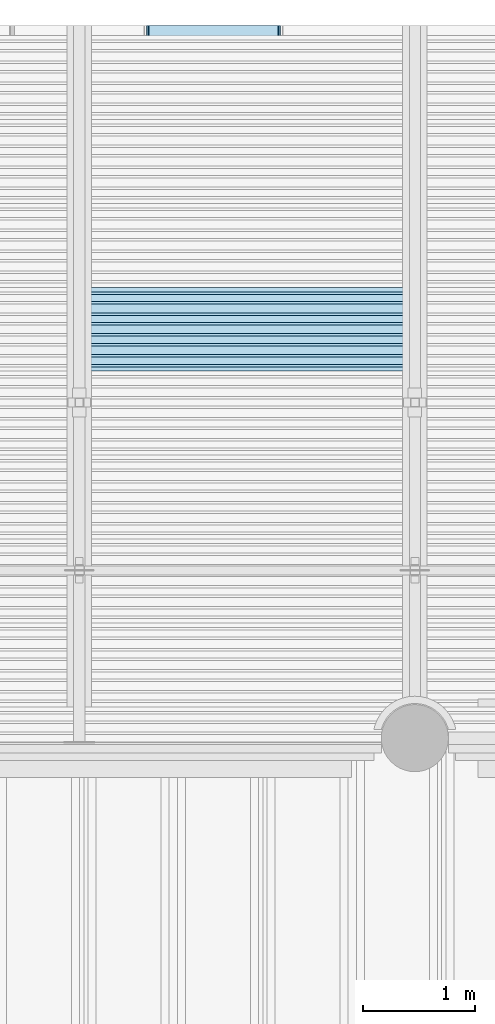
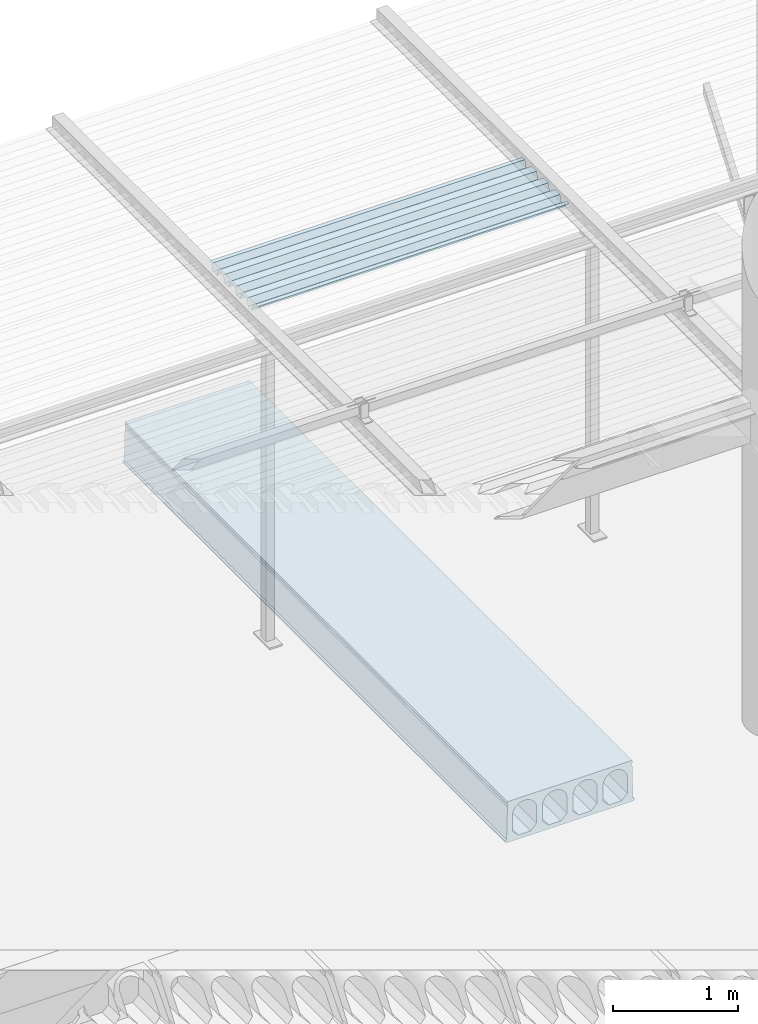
# One storey, part 91 of 98: 2 slabs.
"""IFC2X3 building model written with IfcOpenShell, lengths in millimetres."""

from ifc_helpers import new_model, entity, si_unit, converted_unit, derived_unit, direction, frame, origin_with_axes, place, context, subcontext, project, spatial, faceted_brep, material, type_object, element, save


model = new_model("IFC2X3")

# Units and contexts
model_context = context("Model", 3, precision=0.01, world=frame((0.0, 4.29681676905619e-09, 0.0)), true_north=direction((4.01073788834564e-13, 1.0)))
plan_context = context("Plan", 3, precision=0.01, world=frame((0.0, 4.29681676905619e-09, 0.0)), true_north=direction((4.01073788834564e-13, 1.0)))
body_context = subcontext(model_context, "Body", "Model", "MODEL_VIEW")
ifc_project = project(units=[converted_unit("PLANEANGLEUNIT", "DEGREE", entity("IfcPositiveLengthMeasure", 0.0174532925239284), si_unit("PLANEANGLEUNIT", "RADIAN"), dimensions=[0, 0, 0, 0, 0, 0, 0]), si_unit("AREAUNIT", "SQUARE_METRE"), si_unit("LENGTHUNIT", "METRE", prefix="MILLI"), si_unit("MASSUNIT", "GRAM", prefix="KILO"), si_unit("POWERUNIT", "WATT"), si_unit("PRESSUREUNIT", "PASCAL"), si_unit("FORCEUNIT", "NEWTON", prefix="KILO"), si_unit("ELECTRICCURRENTUNIT", "AMPERE"), si_unit("THERMODYNAMICTEMPERATUREUNIT", "DEGREE_CELSIUS"), si_unit("TIMEUNIT", "SECOND"), si_unit("VOLUMEUNIT", "CUBIC_METRE"), derived_unit("LINEARVELOCITYUNIT", [(si_unit("LENGTHUNIT", "METRE"), 1), (si_unit("TIMEUNIT", "SECOND"), -1)]), derived_unit("VOLUMETRICFLOWRATEUNIT", [(si_unit("VOLUMEUNIT", "CUBIC_METRE"), 1), (si_unit("TIMEUNIT", "SECOND"), -1)]), derived_unit("THERMALTRANSMITTANCEUNIT", [(si_unit("POWERUNIT", "WATT"), 1), (si_unit("THERMODYNAMICTEMPERATUREUNIT", "KELVIN"), -1), (si_unit("AREAUNIT", "SQUARE_METRE"), -1)])], contexts=[model_context, plan_context])

# Site, building, storey
site_placement = place(None, frame((0.0, -4.29681676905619e-09, 0.0), z_axis=(0.0, 0.0, 1.0), x_axis=(1.0, 0.0, 0.0)))
site = spatial("IfcSite", under=ifc_project, at=site_placement, Name="Gardermoen", CompositionType="ELEMENT")
building_placement = place(site_placement, frame((0.0, 4.29681676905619e-09, 0.0), z_axis=(0.0, 0.0, 1.0), x_axis=(1.0, 0.0, 0.0)))
building = spatial("IfcBuilding", under=site, at=building_placement, Name="TS", CompositionType="ELEMENT")
storey_placement = place(building_placement, origin_with_axes())
storey = spatial("IfcBuildingStorey", under=building, at=storey_placement, Name="D", CompositionType="ELEMENT", Elevation=0.0)

# Slabs
slab_type_1 = type_object("IfcSlabType", Name="HD400", PredefinedType="NOTDEFINED")
slab_1_placement = place(storey_placement, frame((527199.999766, 414739.995625, 203600.0), z_axis=(0.0, 0.0, 1.0), x_axis=(0.0, 1.0, 0.0)))
element("IfcSlab", 1, at=slab_1_placement, inside=storey, type_object=slab_type_1, Name="HULLDEKKE", ObjectType="HD400", PredefinedType="FLOOR", context=body_context, shape_type="Brep", body=[
    faceted_brep([(6130.19582840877, 600.0, -190.0), (6130.19582840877, 600.0, -180.0), (0.0, 600.0, -180.0), (0.0, 600.0, -190.0), (6130.19582840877, 585.0, -170.0), (0.0, 585.0, -170.0), (6130.19582840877, 577.5, 145.0), (0.0, 577.5, 145.0), (6130.19582840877, 570.0, 160.0), (0.0, 570.0, 160.0), (6130.19582840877, 577.5, 175.0), (0.0, 577.5, 175.0), (6130.19582840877, 577.5, 200.0), (0.0, 577.5, 200.0), (6130.19582840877, -577.5, 200.0), (0.0, -577.5, 200.0), (6130.19582840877, -577.5, 175.0), (0.0, -577.5, 175.0), (6130.19582840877, -570.0, 160.0), (0.0, -570.0, 160.0), (6130.19582840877, -577.5, 145.0), (0.0, -577.5, 145.0), (6130.19582840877, -585.0, -170.0), (0.0, -585.0, -170.0), (6130.19582840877, -600.0, -180.0), (0.0, -600.0, -180.0), (6130.19582840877, -600.0, -190.0), (0.0, -600.0, -190.0), (6130.19582840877, -583.380004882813, -200.0), (0.0, -583.380004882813, -200.0), (6130.19582840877, 583.380004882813, -200.0), (0.0, 583.380004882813, -200.0), (6130.19582840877, -362.5, -160.0), (6130.19582840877, -477.5, -160.0), (0.0, -477.5, -160.0), (0.0, -362.5, -160.0), (6130.19582840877, -532.5, -105.0), (0.0, -532.5, -105.0), (6130.19582840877, -532.5, 47.5), (0.0, -532.5, 47.5), (6130.19582840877, -532.115755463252, 56.7901763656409), (0.0, -532.115755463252, 56.7901763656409), (6130.19582840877, -530.965646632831, 66.0168914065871), (0.0, -530.965646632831, 66.0168914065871), (6130.19582840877, -529.057529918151, 75.1171173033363), (0.0, -529.057529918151, 75.1171173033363), (6130.19582840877, -526.404439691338, 84.028690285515), (0.0, -526.404439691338, 84.028690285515), (6130.19582840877, -523.024499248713, 92.6907352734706), (0.0, -523.024499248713, 92.6907352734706), (6130.19582840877, -518.940797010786, 101.044081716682), (0.0, -518.940797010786, 101.044081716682), (6130.19582840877, -514.181228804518, 109.031667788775), (0.0, -514.181228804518, 109.031667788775), (6130.19582840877, -508.778307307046, 116.598930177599), (0.0, -508.778307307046, 116.598930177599), (6130.19582840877, -502.768939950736, 123.694176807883), (0.0, -502.768939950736, 123.694176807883), (6130.19582840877, -496.194176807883, 130.268939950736), (0.0, -496.194176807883, 130.268939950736), (6130.19582840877, -489.098930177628, 136.278307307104), (0.0, -489.098930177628, 136.278307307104), (6130.19582840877, -481.531667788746, 141.681228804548), (0.0, -481.531667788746, 141.681228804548), (6130.19582840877, -473.544081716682, 146.440797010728), (0.0, -473.544081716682, 146.440797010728), (6130.19582840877, -465.190735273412, 150.524499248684), (0.0, -465.190735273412, 150.524499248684), (6130.19582840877, -456.528690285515, 153.904439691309), (0.0, -456.528690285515, 153.904439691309), (6130.19582840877, -447.617117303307, 156.55752991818), (0.0, -447.617117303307, 156.55752991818), (6130.19582840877, -438.516891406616, 158.465646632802), (0.0, -438.516891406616, 158.465646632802), (6130.19582840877, -429.290176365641, 159.615755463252), (0.0, -429.290176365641, 159.615755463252), (6130.19582840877, -420.0, 160.0), (0.0, -420.0, 160.0), (6130.19582840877, -410.709823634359, 159.615755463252), (0.0, -410.709823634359, 159.615755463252), (6130.19582840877, -401.483108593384, 158.465646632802), (0.0, -401.483108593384, 158.465646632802), (6130.19582840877, -392.382882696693, 156.55752991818), (0.0, -392.382882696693, 156.55752991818), (6130.19582840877, -383.471309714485, 153.904439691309), (0.0, -383.471309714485, 153.904439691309), (6130.19582840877, -374.809264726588, 150.524499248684), (0.0, -374.809264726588, 150.524499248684), (6130.19582840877, -366.455918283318, 146.440797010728), (0.0, -366.455918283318, 146.440797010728), (6130.19582840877, -358.468332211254, 141.681228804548), (0.0, -358.468332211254, 141.681228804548), (6130.19582840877, -350.901069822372, 136.278307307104), (0.0, -350.901069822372, 136.278307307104), (6130.19582840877, -343.805823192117, 130.268939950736), (0.0, -343.805823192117, 130.268939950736), (6130.19582840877, -337.231060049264, 123.694176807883), (0.0, -337.231060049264, 123.694176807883), (6130.19582840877, -331.221692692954, 116.598930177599), (0.0, -331.221692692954, 116.598930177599), (6130.19582840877, -325.818771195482, 109.031667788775), (0.0, -325.818771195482, 109.031667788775), (6130.19582840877, -321.059202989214, 101.044081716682), (0.0, -321.059202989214, 101.044081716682), (6130.19582840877, -316.975500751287, 92.6907352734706), (0.0, -316.975500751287, 92.6907352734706), (6130.19582840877, -313.595560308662, 84.028690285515), (0.0, -313.595560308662, 84.028690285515), (6130.19582840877, -310.942470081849, 75.1171173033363), (0.0, -310.942470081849, 75.1171173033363), (6130.19582840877, -309.034353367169, 66.0168914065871), (0.0, -309.034353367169, 66.0168914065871), (6130.19582840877, -307.884244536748, 56.7901763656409), (0.0, -307.884244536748, 56.7901763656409), (6130.19582840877, -307.5, 47.5), (0.0, -307.5, 47.5), (6130.19582840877, -307.5, -105.0), (0.0, -307.5, -105.0), (6130.19582840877, -82.5, -160.0), (6130.19582840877, -197.5, -160.0), (0.0, -197.5, -160.0), (0.0, -82.5, -160.0), (6130.19582840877, -252.5, -105.0), (0.0, -252.5, -105.0), (6130.19582840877, -252.5, 47.5), (0.0, -252.5, 47.5), (6130.19582840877, -252.115755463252, 56.7901763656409), (0.0, -252.115755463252, 56.7901763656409), (6130.19582840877, -250.965646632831, 66.0168914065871), (0.0, -250.965646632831, 66.0168914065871), (6130.19582840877, -249.057529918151, 75.1171173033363), (0.0, -249.057529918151, 75.1171173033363), (6130.19582840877, -246.404439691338, 84.028690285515), (0.0, -246.404439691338, 84.028690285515), (6130.19582840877, -243.024499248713, 92.6907352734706), (0.0, -243.024499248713, 92.6907352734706), (6130.19582840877, -238.940797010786, 101.044081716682), (0.0, -238.940797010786, 101.044081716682), (6130.19582840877, -234.181228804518, 109.031667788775), (0.0, -234.181228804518, 109.031667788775), (6130.19582840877, -228.778307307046, 116.598930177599), (0.0, -228.778307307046, 116.598930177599), (6130.19582840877, -222.768939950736, 123.694176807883), (0.0, -222.768939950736, 123.694176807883), (6130.19582840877, -216.194176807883, 130.268939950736), (0.0, -216.194176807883, 130.268939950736), (6130.19582840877, -209.098930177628, 136.278307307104), (0.0, -209.098930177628, 136.278307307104), (6130.19582840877, -201.531667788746, 141.681228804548), (0.0, -201.531667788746, 141.681228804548), (6130.19582840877, -193.544081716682, 146.440797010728), (0.0, -193.544081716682, 146.440797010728), (6130.19582840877, -185.190735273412, 150.524499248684), (0.0, -185.190735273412, 150.524499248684), (6130.19582840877, -176.528690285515, 153.904439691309), (0.0, -176.528690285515, 153.904439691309), (6130.19582840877, -167.617117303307, 156.55752991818), (0.0, -167.617117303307, 156.55752991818), (6130.19582840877, -158.516891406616, 158.465646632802), (0.0, -158.516891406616, 158.465646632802), (6130.19582840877, -149.290176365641, 159.615755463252), (0.0, -149.290176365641, 159.615755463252), (6130.19582840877, -140.0, 160.0), (0.0, -140.0, 160.0), (6130.19582840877, -130.709823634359, 159.615755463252), (0.0, -130.709823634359, 159.615755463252), (6130.19582840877, -121.483108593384, 158.465646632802), (0.0, -121.483108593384, 158.465646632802), (6130.19582840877, -112.382882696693, 156.55752991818), (0.0, -112.382882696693, 156.55752991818), (6130.19582840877, -103.471309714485, 153.904439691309), (0.0, -103.471309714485, 153.904439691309), (6130.19582840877, -94.8092647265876, 150.524499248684), (0.0, -94.8092647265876, 150.524499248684), (6130.19582840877, -86.4559182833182, 146.440797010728), (0.0, -86.4559182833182, 146.440797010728), (6130.19582840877, -78.4683322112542, 141.681228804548), (0.0, -78.4683322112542, 141.681228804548), (6130.19582840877, -70.9010698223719, 136.278307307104), (0.0, -70.9010698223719, 136.278307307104), (6130.19582840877, -63.8058231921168, 130.268939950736), (0.0, -63.8058231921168, 130.268939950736), (6130.19582840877, -57.2310600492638, 123.694176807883), (0.0, -57.2310600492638, 123.694176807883), (6130.19582840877, -51.2216926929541, 116.598930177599), (0.0, -51.2216926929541, 116.598930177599), (6130.19582840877, -45.8187711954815, 109.031667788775), (0.0, -45.8187711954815, 109.031667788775), (6130.19582840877, -41.0592029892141, 101.044081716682), (0.0, -41.0592029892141, 101.044081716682), (6130.19582840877, -36.9755007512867, 92.6907352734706), (0.0, -36.9755007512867, 92.6907352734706), (6130.19582840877, -33.5955603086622, 84.028690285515), (0.0, -33.5955603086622, 84.028690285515), (6130.19582840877, -30.942470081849, 75.1171173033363), (0.0, -30.942470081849, 75.1171173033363), (6130.19582840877, -29.0343533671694, 66.0168914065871), (0.0, -29.0343533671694, 66.0168914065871), (6130.19582840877, -27.8842445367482, 56.7901763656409), (0.0, -27.8842445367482, 56.7901763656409), (6130.19582840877, -27.5, 47.5), (0.0, -27.5, 47.5), (6130.19582840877, -27.5, -105.0), (0.0, -27.5, -105.0), (6130.19582840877, 197.5, -160.0), (6130.19582840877, 82.5, -160.0), (0.0, 82.5, -160.0), (0.0, 197.5, -160.0), (6130.19582840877, 27.5, -105.0), (0.0, 27.5, -105.0), (6130.19582840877, 27.5, 47.5), (0.0, 27.5, 47.5), (6130.19582840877, 27.8842445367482, 56.7901763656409), (0.0, 27.8842445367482, 56.7901763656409), (6130.19582840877, 29.0343533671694, 66.0168914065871), (0.0, 29.0343533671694, 66.0168914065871), (6130.19582840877, 30.942470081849, 75.1171173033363), (0.0, 30.942470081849, 75.1171173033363), (6130.19582840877, 33.5955603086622, 84.028690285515), (0.0, 33.5955603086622, 84.028690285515), (6130.19582840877, 36.9755007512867, 92.6907352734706), (0.0, 36.9755007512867, 92.6907352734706), (6130.19582840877, 41.0592029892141, 101.044081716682), (0.0, 41.0592029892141, 101.044081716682), (6130.19582840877, 45.8187711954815, 109.031667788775), (0.0, 45.8187711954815, 109.031667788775), (6130.19582840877, 51.2216926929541, 116.598930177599), (0.0, 51.2216926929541, 116.598930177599), (6130.19582840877, 57.2310600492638, 123.694176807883), (0.0, 57.2310600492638, 123.694176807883), (6130.19582840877, 63.8058231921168, 130.268939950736), (0.0, 63.8058231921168, 130.268939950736), (6130.19582840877, 70.9010698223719, 136.278307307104), (0.0, 70.9010698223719, 136.278307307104), (6130.19582840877, 78.4683322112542, 141.681228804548), (0.0, 78.4683322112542, 141.681228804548), (6130.19582840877, 86.4559182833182, 146.440797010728), (0.0, 86.4559182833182, 146.440797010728), (6130.19582840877, 94.8092647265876, 150.524499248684), (0.0, 94.8092647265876, 150.524499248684), (6130.19582840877, 103.471309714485, 153.904439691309), (0.0, 103.471309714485, 153.904439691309), (6130.19582840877, 112.382882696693, 156.55752991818), (0.0, 112.382882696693, 156.55752991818), (6130.19582840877, 121.483108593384, 158.465646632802), (0.0, 121.483108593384, 158.465646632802), (6130.19582840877, 130.709823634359, 159.615755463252), (0.0, 130.709823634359, 159.615755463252), (6130.19582840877, 140.0, 160.0), (0.0, 140.0, 160.0), (6130.19582840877, 149.290176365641, 159.615755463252), (0.0, 149.290176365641, 159.615755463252), (6130.19582840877, 158.516891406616, 158.465646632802), (0.0, 158.516891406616, 158.465646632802), (6130.19582840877, 167.617117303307, 156.55752991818), (0.0, 167.617117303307, 156.55752991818), (6130.19582840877, 176.528690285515, 153.904439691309), (0.0, 176.528690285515, 153.904439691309), (6130.19582840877, 185.190735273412, 150.524499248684), (0.0, 185.190735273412, 150.524499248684), (6130.19582840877, 193.544081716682, 146.440797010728), (0.0, 193.544081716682, 146.440797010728), (6130.19582840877, 201.531667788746, 141.681228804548), (0.0, 201.531667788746, 141.681228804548), (6130.19582840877, 209.098930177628, 136.278307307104), (0.0, 209.098930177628, 136.278307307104), (6130.19582840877, 216.194176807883, 130.268939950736), (0.0, 216.194176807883, 130.268939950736), (6130.19582840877, 222.768939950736, 123.694176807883), (0.0, 222.768939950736, 123.694176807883), (6130.19582840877, 228.778307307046, 116.598930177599), (0.0, 228.778307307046, 116.598930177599), (6130.19582840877, 234.181228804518, 109.031667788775), (0.0, 234.181228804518, 109.031667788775), (6130.19582840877, 238.940797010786, 101.044081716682), (0.0, 238.940797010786, 101.044081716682), (6130.19582840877, 243.024499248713, 92.6907352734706), (0.0, 243.024499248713, 92.6907352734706), (6130.19582840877, 246.404439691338, 84.028690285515), (0.0, 246.404439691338, 84.028690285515), (6130.19582840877, 249.057529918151, 75.1171173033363), (0.0, 249.057529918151, 75.1171173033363), (6130.19582840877, 250.965646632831, 66.0168914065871), (0.0, 250.965646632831, 66.0168914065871), (6130.19582840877, 252.115755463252, 56.7901763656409), (0.0, 252.115755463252, 56.7901763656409), (6130.19582840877, 252.5, 47.5), (0.0, 252.5, 47.5), (6130.19582840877, 252.5, -105.0), (0.0, 252.5, -105.0), (6130.19582840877, 477.5, -160.0), (6130.19582840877, 362.5, -160.0), (0.0, 362.5, -160.0), (0.0, 477.5, -160.0), (6130.19582840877, 307.5, -105.0), (0.0, 307.5, -105.0), (6130.19582840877, 307.5, 47.5), (0.0, 307.5, 47.5), (6130.19582840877, 307.884244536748, 56.7901763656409), (0.0, 307.884244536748, 56.7901763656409), (6130.19582840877, 309.034353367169, 66.0168914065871), (0.0, 309.034353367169, 66.0168914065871), (6130.19582840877, 310.942470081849, 75.1171173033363), (0.0, 310.942470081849, 75.1171173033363), (6130.19582840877, 313.595560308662, 84.028690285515), (0.0, 313.595560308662, 84.028690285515), (6130.19582840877, 316.975500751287, 92.6907352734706), (0.0, 316.975500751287, 92.6907352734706), (6130.19582840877, 321.059202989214, 101.044081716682), (0.0, 321.059202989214, 101.044081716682), (6130.19582840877, 325.818771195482, 109.031667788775), (0.0, 325.818771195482, 109.031667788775), (6130.19582840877, 331.221692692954, 116.598930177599), (0.0, 331.221692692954, 116.598930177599), (6130.19582840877, 337.231060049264, 123.694176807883), (0.0, 337.231060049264, 123.694176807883), (6130.19582840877, 343.805823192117, 130.268939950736), (0.0, 343.805823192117, 130.268939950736), (6130.19582840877, 350.901069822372, 136.278307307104), (0.0, 350.901069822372, 136.278307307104), (6130.19582840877, 358.468332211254, 141.681228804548), (0.0, 358.468332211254, 141.681228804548), (6130.19582840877, 366.455918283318, 146.440797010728), (0.0, 366.455918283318, 146.440797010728), (6130.19582840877, 374.809264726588, 150.524499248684), (0.0, 374.809264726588, 150.524499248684), (6130.19582840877, 383.471309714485, 153.904439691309), (0.0, 383.471309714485, 153.904439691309), (6130.19582840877, 392.382882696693, 156.55752991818), (0.0, 392.382882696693, 156.55752991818), (6130.19582840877, 401.483108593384, 158.465646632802), (0.0, 401.483108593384, 158.465646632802), (6130.19582840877, 410.709823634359, 159.615755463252), (0.0, 410.709823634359, 159.615755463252), (6130.19582840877, 420.0, 160.0), (0.0, 420.0, 160.0), (6130.19582840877, 429.290176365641, 159.615755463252), (0.0, 429.290176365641, 159.615755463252), (6130.19582840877, 438.516891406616, 158.465646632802), (0.0, 438.516891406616, 158.465646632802), (6130.19582840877, 447.617117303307, 156.55752991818), (0.0, 447.617117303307, 156.55752991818), (6130.19582840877, 456.528690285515, 153.904439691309), (0.0, 456.528690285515, 153.904439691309), (6130.19582840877, 465.190735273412, 150.524499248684), (0.0, 465.190735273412, 150.524499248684), (6130.19582840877, 473.544081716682, 146.440797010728), (0.0, 473.544081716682, 146.440797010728), (6130.19582840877, 481.531667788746, 141.681228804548), (0.0, 481.531667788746, 141.681228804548), (6130.19582840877, 489.098930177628, 136.278307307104), (0.0, 489.098930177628, 136.278307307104), (6130.19582840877, 496.194176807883, 130.268939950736), (0.0, 496.194176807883, 130.268939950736), (6130.19582840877, 502.768939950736, 123.694176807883), (0.0, 502.768939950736, 123.694176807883), (6130.19582840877, 508.778307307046, 116.598930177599), (0.0, 508.778307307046, 116.598930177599), (6130.19582840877, 514.181228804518, 109.031667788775), (0.0, 514.181228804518, 109.031667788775), (6130.19582840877, 518.940797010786, 101.044081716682), (0.0, 518.940797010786, 101.044081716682), (6130.19582840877, 523.024499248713, 92.6907352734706), (0.0, 523.024499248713, 92.6907352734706), (6130.19582840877, 526.404439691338, 84.028690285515), (0.0, 526.404439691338, 84.028690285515), (6130.19582840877, 529.057529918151, 75.1171173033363), (0.0, 529.057529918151, 75.1171173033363), (6130.19582840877, 530.965646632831, 66.0168914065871), (0.0, 530.965646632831, 66.0168914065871), (6130.19582840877, 532.115755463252, 56.7901763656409), (0.0, 532.115755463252, 56.7901763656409), (6130.19582840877, 532.5, 47.5), (0.0, 532.5, 47.5), (6130.19582840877, 532.5, -105.0), (0.0, 532.5, -105.0)], [[[0, 1, 2, 3]], [[1, 4, 5, 2]], [[4, 6, 7, 5]], [[6, 8, 9, 7]], [[8, 10, 11, 9]], [[10, 12, 13, 11]], [[12, 14, 15, 13]], [[14, 16, 17, 15]], [[16, 18, 19, 17]], [[18, 20, 21, 19]], [[20, 22, 23, 21]], [[22, 24, 25, 23]], [[24, 26, 27, 25]], [[26, 28, 29, 27]], [[28, 30, 31, 29]], [[30, 0, 3, 31]], [[32, 33, 34, 35]], [[33, 36, 37, 34]], [[36, 38, 39, 37]], [[38, 40, 41, 39]], [[40, 42, 43, 41]], [[42, 44, 45, 43]], [[44, 46, 47, 45]], [[46, 48, 49, 47]], [[48, 50, 51, 49]], [[50, 52, 53, 51]], [[52, 54, 55, 53]], [[54, 56, 57, 55]], [[56, 58, 59, 57]], [[58, 60, 61, 59]], [[60, 62, 63, 61]], [[62, 64, 65, 63]], [[64, 66, 67, 65]], [[66, 68, 69, 67]], [[68, 70, 71, 69]], [[70, 72, 73, 71]], [[72, 74, 75, 73]], [[74, 76, 77, 75]], [[76, 78, 79, 77]], [[78, 80, 81, 79]], [[80, 82, 83, 81]], [[82, 84, 85, 83]], [[84, 86, 87, 85]], [[86, 88, 89, 87]], [[88, 90, 91, 89]], [[90, 92, 93, 91]], [[92, 94, 95, 93]], [[94, 96, 97, 95]], [[96, 98, 99, 97]], [[98, 100, 101, 99]], [[100, 102, 103, 101]], [[102, 104, 105, 103]], [[104, 106, 107, 105]], [[106, 108, 109, 107]], [[108, 110, 111, 109]], [[110, 112, 113, 111]], [[112, 114, 115, 113]], [[114, 116, 117, 115]], [[116, 32, 35, 117]], [[118, 119, 120, 121]], [[119, 122, 123, 120]], [[122, 124, 125, 123]], [[124, 126, 127, 125]], [[126, 128, 129, 127]], [[128, 130, 131, 129]], [[130, 132, 133, 131]], [[132, 134, 135, 133]], [[134, 136, 137, 135]], [[136, 138, 139, 137]], [[138, 140, 141, 139]], [[140, 142, 143, 141]], [[142, 144, 145, 143]], [[144, 146, 147, 145]], [[146, 148, 149, 147]], [[148, 150, 151, 149]], [[150, 152, 153, 151]], [[152, 154, 155, 153]], [[154, 156, 157, 155]], [[156, 158, 159, 157]], [[158, 160, 161, 159]], [[160, 162, 163, 161]], [[162, 164, 165, 163]], [[164, 166, 167, 165]], [[166, 168, 169, 167]], [[168, 170, 171, 169]], [[170, 172, 173, 171]], [[172, 174, 175, 173]], [[174, 176, 177, 175]], [[176, 178, 179, 177]], [[178, 180, 181, 179]], [[180, 182, 183, 181]], [[182, 184, 185, 183]], [[184, 186, 187, 185]], [[186, 188, 189, 187]], [[188, 190, 191, 189]], [[190, 192, 193, 191]], [[192, 194, 195, 193]], [[194, 196, 197, 195]], [[196, 198, 199, 197]], [[198, 200, 201, 199]], [[200, 202, 203, 201]], [[202, 118, 121, 203]], [[204, 205, 206, 207]], [[205, 208, 209, 206]], [[208, 210, 211, 209]], [[210, 212, 213, 211]], [[212, 214, 215, 213]], [[214, 216, 217, 215]], [[216, 218, 219, 217]], [[218, 220, 221, 219]], [[220, 222, 223, 221]], [[222, 224, 225, 223]], [[224, 226, 227, 225]], [[226, 228, 229, 227]], [[228, 230, 231, 229]], [[230, 232, 233, 231]], [[232, 234, 235, 233]], [[234, 236, 237, 235]], [[236, 238, 239, 237]], [[238, 240, 241, 239]], [[240, 242, 243, 241]], [[242, 244, 245, 243]], [[244, 246, 247, 245]], [[246, 248, 249, 247]], [[248, 250, 251, 249]], [[250, 252, 253, 251]], [[252, 254, 255, 253]], [[254, 256, 257, 255]], [[256, 258, 259, 257]], [[258, 260, 261, 259]], [[260, 262, 263, 261]], [[262, 264, 265, 263]], [[264, 266, 267, 265]], [[266, 268, 269, 267]], [[268, 270, 271, 269]], [[270, 272, 273, 271]], [[272, 274, 275, 273]], [[274, 276, 277, 275]], [[276, 278, 279, 277]], [[278, 280, 281, 279]], [[280, 282, 283, 281]], [[282, 284, 285, 283]], [[284, 286, 287, 285]], [[286, 288, 289, 287]], [[288, 204, 207, 289]], [[290, 291, 292, 293]], [[291, 294, 295, 292]], [[294, 296, 297, 295]], [[296, 298, 299, 297]], [[298, 300, 301, 299]], [[300, 302, 303, 301]], [[302, 304, 305, 303]], [[304, 306, 307, 305]], [[306, 308, 309, 307]], [[308, 310, 311, 309]], [[310, 312, 313, 311]], [[312, 314, 315, 313]], [[314, 316, 317, 315]], [[316, 318, 319, 317]], [[318, 320, 321, 319]], [[320, 322, 323, 321]], [[322, 324, 325, 323]], [[324, 326, 327, 325]], [[326, 328, 329, 327]], [[328, 330, 331, 329]], [[330, 332, 333, 331]], [[332, 334, 335, 333]], [[334, 336, 337, 335]], [[336, 338, 339, 337]], [[338, 340, 341, 339]], [[340, 342, 343, 341]], [[342, 344, 345, 343]], [[344, 346, 347, 345]], [[346, 348, 349, 347]], [[348, 350, 351, 349]], [[350, 352, 353, 351]], [[352, 354, 355, 353]], [[354, 356, 357, 355]], [[356, 358, 359, 357]], [[358, 360, 361, 359]], [[360, 362, 363, 361]], [[362, 364, 365, 363]], [[364, 366, 367, 365]], [[366, 368, 369, 367]], [[368, 370, 371, 369]], [[370, 372, 373, 371]], [[372, 374, 375, 373]], [[374, 290, 293, 375]], [[3, 2, 5, 7, 9, 11, 13, 15, 17, 19, 21, 23, 25, 27, 29, 31], [293, 292, 295, 297, 299, 301, 303, 305, 307, 309, 311, 313, 315, 317, 319, 321, 323, 325, 327, 329, 331, 333, 335, 337, 339, 341, 343, 345, 347, 349, 351, 353, 355, 357, 359, 361, 363, 365, 367, 369, 371, 373, 375], [207, 206, 209, 211, 213, 215, 217, 219, 221, 223, 225, 227, 229, 231, 233, 235, 237, 239, 241, 243, 245, 247, 249, 251, 253, 255, 257, 259, 261, 263, 265, 267, 269, 271, 273, 275, 277, 279, 281, 283, 285, 287, 289], [121, 120, 123, 125, 127, 129, 131, 133, 135, 137, 139, 141, 143, 145, 147, 149, 151, 153, 155, 157, 159, 161, 163, 165, 167, 169, 171, 173, 175, 177, 179, 181, 183, 185, 187, 189, 191, 193, 195, 197, 199, 201, 203], [35, 34, 37, 39, 41, 43, 45, 47, 49, 51, 53, 55, 57, 59, 61, 63, 65, 67, 69, 71, 73, 75, 77, 79, 81, 83, 85, 87, 89, 91, 93, 95, 97, 99, 101, 103, 105, 107, 109, 111, 113, 115, 117]], [[30, 28, 26, 24, 22, 20, 18, 16, 14, 12, 10, 8, 6, 4, 1, 0], [116, 114, 112, 110, 108, 106, 104, 102, 100, 98, 96, 94, 92, 90, 88, 86, 84, 82, 80, 78, 76, 74, 72, 70, 68, 66, 64, 62, 60, 58, 56, 54, 52, 50, 48, 46, 44, 42, 40, 38, 36, 33, 32], [202, 200, 198, 196, 194, 192, 190, 188, 186, 184, 182, 180, 178, 176, 174, 172, 170, 168, 166, 164, 162, 160, 158, 156, 154, 152, 150, 148, 146, 144, 142, 140, 138, 136, 134, 132, 130, 128, 126, 124, 122, 119, 118], [288, 286, 284, 282, 280, 278, 276, 274, 272, 270, 268, 266, 264, 262, 260, 258, 256, 254, 252, 250, 248, 246, 244, 242, 240, 238, 236, 234, 232, 230, 228, 226, 224, 222, 220, 218, 216, 214, 212, 210, 208, 205, 204], [374, 372, 370, 368, 366, 364, 362, 360, 358, 356, 354, 352, 350, 348, 346, 344, 342, 340, 338, 336, 334, 332, 330, 328, 326, 324, 322, 320, 318, 316, 314, 312, 310, 308, 306, 304, 302, 300, 298, 296, 294, 291, 290]]], orient=[[False], [False], [False], [False], [False], [False], [False], [False], [False], [False], [False], [False], [False], [False], [False], [False], [False], [False], [False], [False], [False], [False], [False], [False], [False], [False], [False], [False], [False], [False], [False], [False], [False], [False], [False], [False], [False], [False], [False], [False], [False], [False], [False], [False], [False], [False], [False], [False], [False], [False], [False], [False], [False], [False], [False], [False], [False], [False], [False], [False], [False], [False], [False], [False], [False], [False], [False], [False], [False], [False], [False], [False], [False], [False], [False], [False], [False], [False], [False], [False], [False], [False], [False], [False], [False], [False], [False], [False], [False], [False], [False], [False], [False], [False], [False], [False], [False], [False], [False], [False], [False], [False], [False], [False], [False], [False], [False], [False], [False], [False], [False], [False], [False], [False], [False], [False], [False], [False], [False], [False], [False], [False], [False], [False], [False], [False], [False], [False], [False], [False], [False], [False], [False], [False], [False], [False], [False], [False], [False], [False], [False], [False], [False], [False], [False], [False], [False], [False], [False], [False], [False], [False], [False], [False], [False], [False], [False], [False], [False], [False], [False], [False], [False], [False], [False], [False], [False], [False], [False], [False], [False], [False], [False], [False], [False], [False], [False], [False], [False], [False], [False], [False], [False], [False], [False], [False], [False], [False], [False, False, False, False, False], [False, False, False, False, False]]),
])
ifc_material = material(Name="STEEL/S355")
slab_type_2 = type_object("IfcSlabType", Name="PLANJA70", PredefinedType="NOTDEFINED")
slab_2_placement = place(storey_placement, frame((528950.000000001, 418154.996695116, 206958.849718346), z_axis=(0.0, 0.0, 1.0), x_axis=(-0.999999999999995, -9.99999902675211e-08, 0.0)))
element("IfcSlab", 2, at=slab_2_placement, inside=storey, type_object=slab_type_2, material=ifc_material, Name="STÅLTAK", ObjectType="PLANJA70", PredefinedType="FLOOR", context=body_context, shape_type="Brep", body=[
    faceted_brep([(0.0, 375.0, 34.1500015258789), (0.0, 335.299987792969, 34.1500015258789), (2900.00079747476, 335.299987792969, 34.1500015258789), (2900.00079747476, 375.0, 34.1500015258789), (0.0, 313.010681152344, -32.1500015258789), (2900.00079747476, 313.010681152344, -32.1500015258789), (0.0, 249.489303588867, -32.1500015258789), (2900.00079747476, 249.489303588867, -32.1500015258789), (0.0, 227.199996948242, 34.1500015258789), (2900.00079747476, 227.199996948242, 34.1500015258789), (0.0, 147.800003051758, 34.1500015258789), (2900.00079747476, 147.800003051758, 34.1500015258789), (0.0, 125.280120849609, -33.1500015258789), (2900.00079747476, 125.280120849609, -33.1500015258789), (0.0, 62.2198791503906, -33.1500015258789), (2900.00079747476, 62.2198791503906, -33.1500015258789), (0.0, 39.7000007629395, 34.1500015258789), (2900.00079747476, 39.7000007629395, 34.1500015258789), (0.0, -39.7000007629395, 34.1500015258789), (2900.00079747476, -39.7000007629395, 34.1500015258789), (0.0, -62.2198791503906, -33.1500015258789), (2900.00079747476, -62.2198791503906, -33.1500015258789), (0.0, -125.280120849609, -33.1500015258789), (2900.00079747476, -125.280120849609, -33.1500015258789), (0.0, -147.800003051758, 34.1500015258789), (2900.00079747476, -147.800003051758, 34.1500015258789), (0.0, -227.199996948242, 34.1500015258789), (2900.00079747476, -227.199996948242, 34.1500015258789), (0.0, -249.719879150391, -33.1500015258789), (2900.00079747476, -249.719879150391, -33.1500015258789), (0.0, -312.781188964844, -33.1500015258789), (2900.00079747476, -312.781188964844, -33.1500015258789), (0.0, -335.070495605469, 33.1500015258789), (2900.00079747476, -335.070495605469, 33.1500015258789), (0.0, -375.0, 33.1500015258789), (2900.00079747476, -375.0, 33.1500015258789), (0.0, -375.0, 32.1500015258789), (2900.00079747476, -375.0, 32.1500015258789), (0.0, -335.789306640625, 32.1500015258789), (2900.00079747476, -335.789306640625, 32.1500015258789), (0.0, -313.5, -34.1500015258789), (2900.00079747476, -313.5, -34.1500015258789), (0.0, -249.0, -34.1500015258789), (2900.00079747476, -249.0, -34.1500015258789), (0.0, -226.480117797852, 33.1500015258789), (2900.00079747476, -226.480117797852, 33.1500015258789), (0.0, -148.519882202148, 33.1500015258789), (2900.00079747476, -148.519882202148, 33.1500015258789), (0.0, -126.0, -34.1500015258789), (2900.00079747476, -126.0, -34.1500015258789), (0.0, -61.5, -34.1500015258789), (2900.00079747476, -61.5, -34.1500015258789), (0.0, -38.9801177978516, 33.1500015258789), (2900.00079747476, -38.9801177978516, 33.1500015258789), (0.0, 38.9801177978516, 33.1500015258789), (2900.00079747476, 38.9801177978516, 33.1500015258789), (0.0, 61.5, -34.1500015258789), (2900.00079747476, 61.5, -34.1500015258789), (0.0, 126.0, -34.1500015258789), (2900.00079747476, 126.0, -34.1500015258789), (0.0, 148.519882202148, 33.1500015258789), (2900.00079747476, 148.519882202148, 33.1500015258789), (0.0, 226.481185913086, 33.1500015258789), (2900.00079747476, 226.481185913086, 33.1500015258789), (0.0, 248.770492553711, -33.1500015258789), (2900.00079747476, 248.770492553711, -33.1500015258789), (0.0, 313.7294921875, -33.1500015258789), (2900.00079747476, 313.7294921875, -33.1500015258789), (0.0, 336.018798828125, 33.1500015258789), (2900.00079747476, 336.018798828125, 33.1500015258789), (0.0, 375.0, 33.1500015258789), (2900.00079747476, 375.0, 33.1500015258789)], [[[0, 1, 2, 3]], [[1, 4, 5, 2]], [[4, 6, 7, 5]], [[6, 8, 9, 7]], [[8, 10, 11, 9]], [[10, 12, 13, 11]], [[12, 14, 15, 13]], [[14, 16, 17, 15]], [[16, 18, 19, 17]], [[18, 20, 21, 19]], [[22, 23, 21, 20]], [[22, 24, 25, 23]], [[24, 26, 27, 25]], [[26, 28, 29, 27]], [[28, 30, 31, 29]], [[30, 32, 33, 31]], [[32, 34, 35, 33]], [[34, 36, 37, 35]], [[36, 38, 39, 37]], [[38, 40, 41, 39]], [[40, 42, 43, 41]], [[42, 44, 45, 43]], [[44, 46, 47, 45]], [[46, 48, 49, 47]], [[48, 50, 51, 49]], [[50, 52, 53, 51]], [[52, 54, 55, 53]], [[54, 56, 57, 55]], [[56, 58, 59, 57]], [[58, 60, 61, 59]], [[60, 62, 63, 61]], [[62, 64, 65, 63]], [[64, 66, 67, 65]], [[66, 68, 69, 67]], [[68, 70, 71, 69]], [[70, 0, 3, 71]], [[5, 7, 9, 11, 13, 15, 17, 19, 21, 23, 25, 27, 29, 31, 33, 35, 37, 39, 41, 43, 45, 47, 49, 51, 53, 55, 57, 59, 61, 63, 65, 67, 69, 71, 3, 2]], [[70, 68, 66, 64, 62, 60, 58, 56, 54, 52, 50, 48, 46, 44, 42, 40, 38, 36, 34, 32, 30, 28, 26, 24, 22, 20, 18, 16, 14, 12, 10, 8, 6, 4, 1, 0]]]),
])

save(model, "model.ifc")
